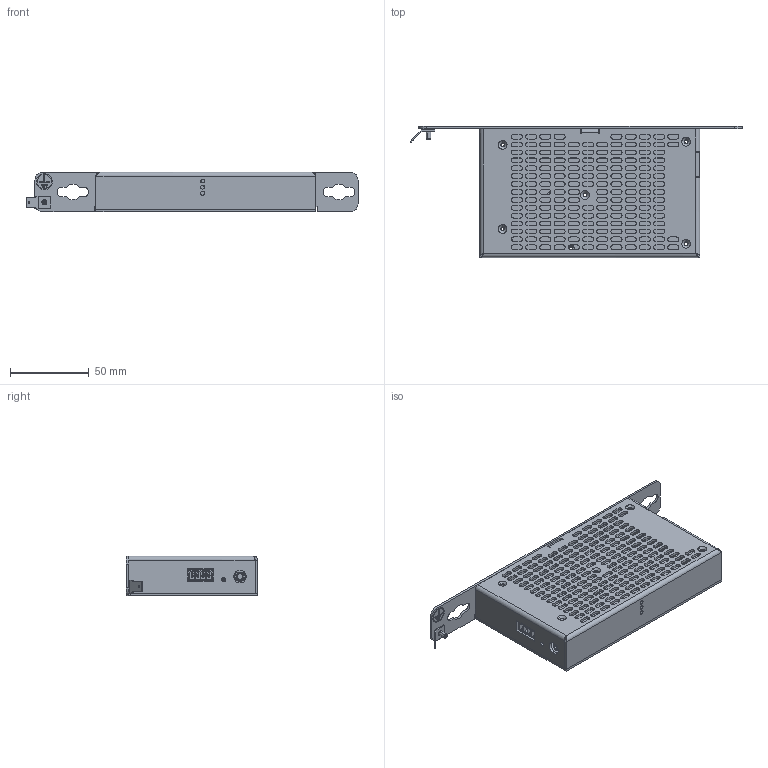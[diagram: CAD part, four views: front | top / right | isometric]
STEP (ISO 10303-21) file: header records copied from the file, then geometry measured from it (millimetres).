
FILE_DESCRIPTION (( 'STEP AP214' ), '1' );
FILE_NAME ('PC301_E8.STEP', '2017-04-26T09:47:22', ( 'SIGMATEK GmbH & Co KG' ), ( 'SIGMATEK GmbH & Co KG' ), 'SwSTEP 2.0', 'SolidWorks 2017', '' );
FILE_SCHEMA (( 'AUTOMOTIVE_DESIGN' ));
Length unit declared in the file: millimetre
Products named in the file (16): 4080225531 3,5mm Klinkenbuchse 90Grad SJ-43516-SMT; ZExxxx-4223-x2 Gehäuse Extender Box Valens; s_m2_5_1; ZExxxx-4222-x2 Grundplatte Extender Box Valens; so_m2_5_8; fh_m3_8; ZExxxx-4222-x1 Grundplatte Extender-Box Valens; Zahnscheibe DIN6797 - A 3,2 - FSt-verzinkt; PC301_E8; 3030261492 Steckzunge 6,3 m.B. M3 DIN46244 St-verzinnt; 134400-KPL-01_(Ex-Box)_nur Buchsen; 4080225165 USB-Buchse Typ B 90°, FCI 61729-1011 RLF; 4080225540_RJ45_5558342-1; 4110251205 4pol.Minicombicon-Grundgehäuse RM3,5 1937512; Molex 105019-0001
Assembly tree (21 placements, depth 3):
  PC301_E8
    ZExxxx-4222-x2 Grundplatte Extender Box Valens
      ZExxxx-4222-x1 Grundplatte Extender-Box Valens
      fh_m3_8
      so_m2_5_8  x7
    ZExxxx-4223-x2 Gehäuse Extender Box Valens
      ZExxxx-4223-x2 Gehäuse Extender Box Valens
      s_m2_5_1
    134400-KPL-01_(Ex-Box)_nur Buchsen
      4080225531 3,5mm Klinkenbuchse 90Grad SJ-43516-SMT
      Molex 105019-0001
      4110251205 4pol.Minicombicon-Grundgehäuse RM3,5 1937512
      4080225540_RJ45_5558342-1
      4080225165 USB-Buchse Typ B 90°, FCI 61729-1011 RLF
    3030261492 Steckzunge 6,3 m.B. M3 DIN46244 St-verzinnt
    Zahnscheibe DIN6797 - A 3,2 - FSt-verzinkt
Bounding box: 210.14 x 83 x 25.1 mm (x, y, z)
Volume: 50503.5 mm3; surface area: 79706.2 mm2
Topology: 27 solids, 29 shells, 3919 faces, 11040 edges, 7166 vertices
Faces by surface type: plane 2674, cylinder 1068, bspline 104, cone 73
Full cylindrical faces by diameter (mm): 0.2 x1
Entity records: 130795 total; most frequent: CARTESIAN_POINT 25848, ORIENTED_EDGE 21514, DIRECTION 19746, EDGE_CURVE 10770, VECTOR 8246, LINE 8246, VERTEX_POINT 6996, AXIS2_PLACEMENT_3D 5750
